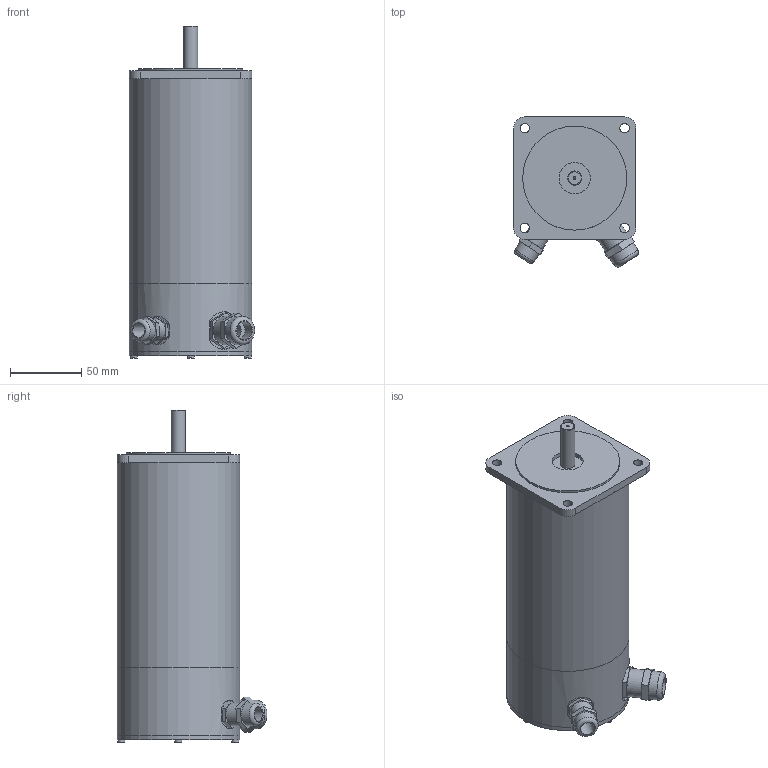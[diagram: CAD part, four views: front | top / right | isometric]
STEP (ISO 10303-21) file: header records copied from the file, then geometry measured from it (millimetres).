
FILE_DESCRIPTION((''),'2;1');
FILE_NAME('C:\Users\Reinhard\Documents\Inventor\Testschrittmotor\SM87\SM87.4-H200-KV.stp','2012-11-14T20:36:55',('Reinhard'),(''),'Autodesk Inventor 2012','Autodesk Inventor 2012','');
FILE_SCHEMA(('CONFIG_CONTROL_DESIGN'));
Length unit declared in the file: millimetre
Products named in the file (1): SM87
Bounding box: 87.8 x 105.15 x 233 mm (x, y, z)
Volume: 197341.4 mm3; surface area: 136221.6 mm2
Topology: 2 solids, 2 shells, 125 faces, 281 edges, 185 vertices
Faces by surface type: plane 79, cylinder 42, torus 2, cone 2
Full cylindrical faces by diameter (mm): 2 x1, 5 x4, 6.6 x4, 10 x2, 12 x2, 13 x2, 15 x1, 16 x2, 18.376 x1, 20 x3, 22 x1, 73 x1, 78 x2, 82 x1, 86 x3
Entity records: 3404 total; most frequent: CARTESIAN_POINT 674, DIRECTION 568, ORIENTED_EDGE 476, EDGE_CURVE 238, AXIS2_PLACEMENT_3D 218, EDGE_LOOP 198, VERTEX_POINT 176, VECTOR 132
